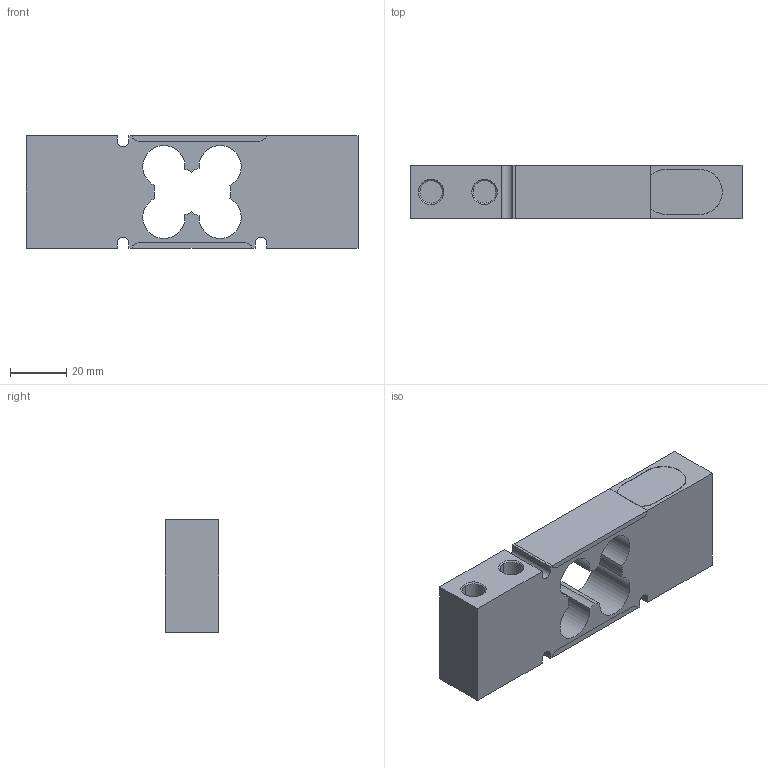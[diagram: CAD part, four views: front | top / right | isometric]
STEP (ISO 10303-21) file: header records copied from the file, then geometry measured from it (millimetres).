
FILE_DESCRIPTION((''),'1');
FILE_NAME('LCLK_30-50-75-100_kg.step','2021-11-23T07:36:36',(''),(''),'','','');
FILE_SCHEMA(('AUTOMOTIVE_DESIGN { 1 0 10303 214 1 1 1 1 }'));
Products named in the file (4): LCLK 30-50-75-100_kg; LCLK body 01; LCLK part 02; LCLK part 03
Assembly tree (3 placements, depth 2):
  LCLK 30-50-75-100_kg
    LCLK body 01
    LCLK part 02
    LCLK part 03
Bounding box: 118 x 19 x 40 mm (x, y, z)
Volume: 68677.2 mm3; surface area: 22639.9 mm2
Topology: 3 solids, 3 shells, 97 faces, 250 edges, 164 vertices
Faces by surface type: cylinder 49, plane 40, cone 8
Entity records: 3104 total; most frequent: DIRECTION 558, CARTESIAN_POINT 521, ORIENTED_EDGE 500, EDGE_CURVE 250, AXIS2_PLACEMENT_3D 209, VERTEX_POINT 164, LINE 140, VECTOR 140
